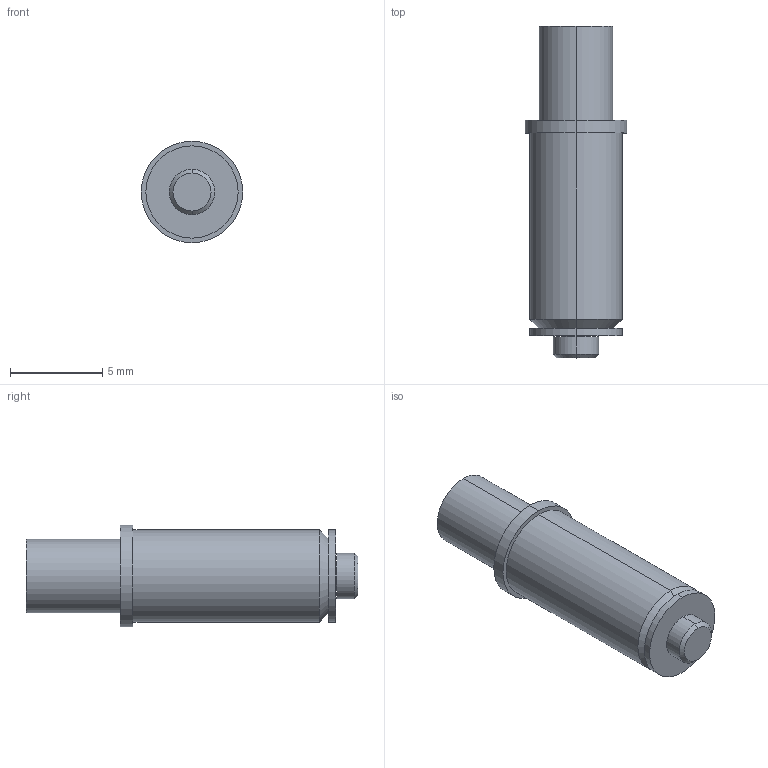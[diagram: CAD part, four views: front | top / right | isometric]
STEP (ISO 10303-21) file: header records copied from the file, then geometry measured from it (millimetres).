
FILE_DESCRIPTION((''),'2;1');
FILE_NAME('PRT0009','2023-06-02T09:59:22',('USER'),(''),'CREO PARAMETRIC BY PTC INC, 2020154','CREO PARAMETRIC BY PTC INC, 2020154','');
FILE_SCHEMA(('CONFIG_CONTROL_DESIGN'));
Length unit declared in the file: millimetre
Products named in the file (1): PRT0009
Bounding box: 5.5 x 18 x 5.5 mm (x, y, z)
Volume: 262.4 mm3; surface area: 367 mm2
Topology: 1 solids, 1 shells, 30 faces, 60 edges, 37 vertices
Faces by surface type: cylinder 14, plane 8, cone 8
Entity records: 816 total; most frequent: DIRECTION 154, CARTESIAN_POINT 125, ORIENTED_EDGE 116, AXIS2_PLACEMENT_3D 66, EDGE_CURVE 58, VERTEX_POINT 37, EDGE_LOOP 37, CIRCLE 36
